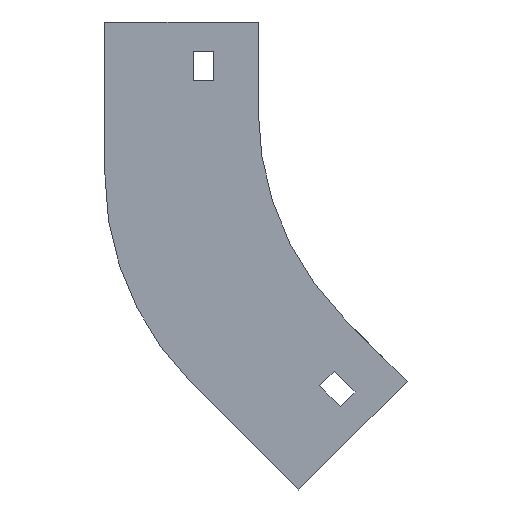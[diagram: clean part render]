
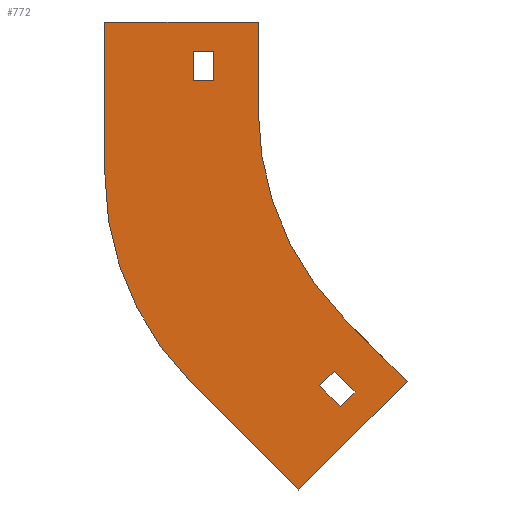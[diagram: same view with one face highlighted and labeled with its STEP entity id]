
A CAD part, left-side view. The second image highlights one B-rep face of the part: STEP entity #772.
In plain terms, the highlighted planar face has unit normal (-1, 0, 0).
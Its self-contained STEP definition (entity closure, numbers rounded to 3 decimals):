
#5 = VECTOR ( 'NONE', #921, 1000. ) ;
#8 = VERTEX_POINT ( 'NONE', #9 ) ;
#9 = CARTESIAN_POINT ( 'NONE',  ( -252., 15., -20. ) ) ;
#19 = DIRECTION ( 'NONE',  ( 0., 0., 1. ) ) ;
#28 = CARTESIAN_POINT ( 'NONE',  ( -252., -100., -30. ) ) ;
#44 = VECTOR ( 'NONE', #723, 1000. ) ;
#47 = LINE ( 'NONE', #1341, #559 ) ;
#66 = CARTESIAN_POINT ( 'NONE',  ( -252., 22., -10. ) ) ;
#68 = VECTOR ( 'NONE', #19, 1000. ) ;
#101 = LINE ( 'NONE', #1295, #420 ) ;
#105 = LINE ( 'NONE', #520, #114 ) ;
#114 = VECTOR ( 'NONE', #1300, 1000. ) ;
#134 = DIRECTION ( 'NONE',  ( 0., -0.707, -0.707 ) ) ;
#140 = LINE ( 'NONE', #993, #68 ) ;
#153 = CARTESIAN_POINT ( 'NONE',  ( -252., -25.754, -118.388 ) ) ;
#159 = CARTESIAN_POINT ( 'NONE',  ( -252., 0., 0. ) ) ;
#166 = ORIENTED_EDGE ( 'NONE', *, *, #1237, .F. ) ;
#180 = DIRECTION ( 'NONE',  ( 0., 0.707, 0.707 ) ) ;
#182 = EDGE_LOOP ( 'NONE', ( #1095, #605, #1086, #860 ) ) ;
#191 = LINE ( 'NONE', #281, #407 ) ;
#194 = DIRECTION ( 'NONE',  ( 0., -0.707, 0.707 ) ) ;
#203 = VERTEX_POINT ( 'NONE', #153 ) ;
#206 = AXIS2_PLACEMENT_3D ( 'NONE', #1242, #597, #494 ) ;
#213 = VERTEX_POINT ( 'NONE', #1103 ) ;
#261 = CARTESIAN_POINT ( 'NONE',  ( -252., -20.804, -123.338 ) ) ;
#278 = ORIENTED_EDGE ( 'NONE', *, *, #972, .F. ) ;
#281 = CARTESIAN_POINT ( 'NONE',  ( -252., 15., -10. ) ) ;
#304 = LINE ( 'NONE', #727, #488 ) ;
#308 = CARTESIAN_POINT ( 'NONE',  ( -252., 15., -10. ) ) ;
#324 = EDGE_LOOP ( 'NONE', ( #836, #1345, #1297, #1278, #278, #166, #504, #626 ) ) ;
#334 = DIRECTION ( 'NONE',  ( 0., -1., 0. ) ) ;
#343 = DIRECTION ( 'NONE',  ( 0., 0.707, 0.707 ) ) ;
#349 = EDGE_CURVE ( 'NONE', #460, #203, #712, .T. ) ;
#392 = CARTESIAN_POINT ( 'NONE',  ( -252., 22.711, -122.25 ) ) ;
#395 = CARTESIAN_POINT ( 'NONE',  ( -252., 22., -10. ) ) ;
#407 = VECTOR ( 'NONE', #925, 1000. ) ;
#410 = VERTEX_POINT ( 'NONE', #841 ) ;
#417 = ORIENTED_EDGE ( 'NONE', *, *, #1238, .F. ) ;
#420 = VECTOR ( 'NONE', #334, 1000. ) ;
#434 = EDGE_CURVE ( 'NONE', #438, #467, #919, .T. ) ;
#438 = VERTEX_POINT ( 'NONE', #395 ) ;
#460 = VERTEX_POINT ( 'NONE', #1267 ) ;
#467 = VERTEX_POINT ( 'NONE', #308 ) ;
#469 = VERTEX_POINT ( 'NONE', #732 ) ;
#470 = CARTESIAN_POINT ( 'NONE',  ( -252., -20.804, -123.338 ) ) ;
#484 = DIRECTION ( 'NONE',  ( -1., 0., 0. ) ) ;
#488 = VECTOR ( 'NONE', #194, 1000. ) ;
#494 = DIRECTION ( 'NONE',  ( 0., 0., -1. ) ) ;
#504 = ORIENTED_EDGE ( 'NONE', *, *, #995, .F. ) ;
#516 = LINE ( 'NONE', #1164, #5 ) ;
#520 = CARTESIAN_POINT ( 'NONE',  ( -252., -27.875, -130.409 ) ) ;
#525 = VERTEX_POINT ( 'NONE', #392 ) ;
#528 = CARTESIAN_POINT ( 'NONE',  ( -252., -13.733, -158.693 ) ) ;
#534 = FACE_OUTER_BOUND ( 'NONE', #324, .T. ) ;
#539 = CARTESIAN_POINT ( 'NONE',  ( -252., -27.875, -130.409 ) ) ;
#559 = VECTOR ( 'NONE', #932, 1000. ) ;
#568 = CARTESIAN_POINT ( 'NONE',  ( -252., -29.289, -100.711 ) ) ;
#574 = LINE ( 'NONE', #470, #964 ) ;
#584 = EDGE_CURVE ( 'NONE', #808, #659, #516, .T. ) ;
#589 = CARTESIAN_POINT ( 'NONE',  ( -252., -50.503, -121.924 ) ) ;
#597 = DIRECTION ( 'NONE',  ( 1., 0., 0. ) ) ;
#605 = ORIENTED_EDGE ( 'NONE', *, *, #937, .T. ) ;
#611 = LINE ( 'NONE', #1153, #44 ) ;
#625 = DIRECTION ( 'NONE',  ( 0., -1., 0. ) ) ;
#626 = ORIENTED_EDGE ( 'NONE', *, *, #1380, .F. ) ;
#636 = VERTEX_POINT ( 'NONE', #820 ) ;
#640 = VERTEX_POINT ( 'NONE', #719 ) ;
#647 = EDGE_LOOP ( 'NONE', ( #795, #1370, #930, #417 ) ) ;
#655 = EDGE_CURVE ( 'NONE', #658, #460, #304, .T. ) ;
#658 = VERTEX_POINT ( 'NONE', #539 ) ;
#659 = VERTEX_POINT ( 'NONE', #1303 ) ;
#667 = DIRECTION ( 'NONE',  ( -1., 0., 0. ) ) ;
#673 = DIRECTION ( 'NONE',  ( 0., 0., 1. ) ) ;
#712 = LINE ( 'NONE', #1258, #883 ) ;
#715 = VECTOR ( 'NONE', #343, 1000. ) ;
#719 = CARTESIAN_POINT ( 'NONE',  ( -252., 0., 0. ) ) ;
#723 = DIRECTION ( 'NONE',  ( 0., 1., 0. ) ) ;
#727 = CARTESIAN_POINT ( 'NONE',  ( -252., -27.875, -130.409 ) ) ;
#732 = CARTESIAN_POINT ( 'NONE',  ( -252., -29.289, -100.711 ) ) ;
#772 = ADVANCED_FACE ( 'NONE', ( #1057, #534, #801 ), #1220, .T. ) ;
#779 = VERTEX_POINT ( 'NONE', #589 ) ;
#795 = ORIENTED_EDGE ( 'NONE', *, *, #349, .F. ) ;
#801 = FACE_BOUND ( 'NONE', #647, .T. ) ;
#808 = VERTEX_POINT ( 'NONE', #897 ) ;
#820 = CARTESIAN_POINT ( 'NONE',  ( -252., -13.733, -158.693 ) ) ;
#836 = ORIENTED_EDGE ( 'NONE', *, *, #1132, .F. ) ;
#841 = CARTESIAN_POINT ( 'NONE',  ( -252., 22., -20. ) ) ;
#860 = ORIENTED_EDGE ( 'NONE', *, *, #1176, .T. ) ;
#862 = CIRCLE ( 'NONE', #1257, 100. ) ;
#876 = VERTEX_POINT ( 'NONE', #261 ) ;
#883 = VECTOR ( 'NONE', #180, 1000. ) ;
#897 = CARTESIAN_POINT ( 'NONE',  ( -252., 52., -51.539 ) ) ;
#919 = LINE ( 'NONE', #66, #1302 ) ;
#921 = DIRECTION ( 'NONE',  ( 0., 0., 1. ) ) ;
#924 = LINE ( 'NONE', #159, #1245 ) ;
#925 = DIRECTION ( 'NONE',  ( 0., 0., -1. ) ) ;
#930 = ORIENTED_EDGE ( 'NONE', *, *, #1085, .F. ) ;
#932 = DIRECTION ( 'NONE',  ( 0., 0.707, -0.707 ) ) ;
#937 = EDGE_CURVE ( 'NONE', #467, #8, #191, .T. ) ;
#948 = EDGE_CURVE ( 'NONE', #525, #808, #1372, .T. ) ;
#964 = VECTOR ( 'NONE', #986, 1000. ) ;
#972 = EDGE_CURVE ( 'NONE', #779, #636, #47, .T. ) ;
#986 = DIRECTION ( 'NONE',  ( 0., 0.707, -0.707 ) ) ;
#993 = CARTESIAN_POINT ( 'NONE',  ( -252., 22., -10. ) ) ;
#995 = EDGE_CURVE ( 'NONE', #213, #469, #862, .T. ) ;
#1057 = FACE_BOUND ( 'NONE', #182, .T. ) ;
#1060 = EDGE_CURVE ( 'NONE', #636, #525, #1070, .T. ) ;
#1068 = AXIS2_PLACEMENT_3D ( 'NONE', #28, #667, #673 ) ;
#1070 = LINE ( 'NONE', #528, #715 ) ;
#1085 = EDGE_CURVE ( 'NONE', #876, #658, #105, .T. ) ;
#1086 = ORIENTED_EDGE ( 'NONE', *, *, #1336, .T. ) ;
#1095 = ORIENTED_EDGE ( 'NONE', *, *, #434, .T. ) ;
#1103 = CARTESIAN_POINT ( 'NONE',  ( -252., 0., -30. ) ) ;
#1104 = LINE ( 'NONE', #568, #1200 ) ;
#1132 = EDGE_CURVE ( 'NONE', #659, #640, #101, .T. ) ;
#1153 = CARTESIAN_POINT ( 'NONE',  ( -252., 22., -20. ) ) ;
#1164 = CARTESIAN_POINT ( 'NONE',  ( -252., 52., -51.539 ) ) ;
#1176 = EDGE_CURVE ( 'NONE', #410, #438, #140, .T. ) ;
#1200 = VECTOR ( 'NONE', #134, 1000. ) ;
#1220 = PLANE ( 'NONE',  #1068 ) ;
#1236 = DIRECTION ( 'NONE',  ( 0., 0., 1. ) ) ;
#1237 = EDGE_CURVE ( 'NONE', #469, #779, #1104, .T. ) ;
#1238 = EDGE_CURVE ( 'NONE', #203, #876, #574, .T. ) ;
#1242 = CARTESIAN_POINT ( 'NONE',  ( -252., -48., -51.539 ) ) ;
#1245 = VECTOR ( 'NONE', #1359, 1000. ) ;
#1257 = AXIS2_PLACEMENT_3D ( 'NONE', #1348, #484, #1236 ) ;
#1258 = CARTESIAN_POINT ( 'NONE',  ( -252., -32.825, -125.459 ) ) ;
#1267 = CARTESIAN_POINT ( 'NONE',  ( -252., -32.825, -125.459 ) ) ;
#1278 = ORIENTED_EDGE ( 'NONE', *, *, #1060, .F. ) ;
#1295 = CARTESIAN_POINT ( 'NONE',  ( -252., 52., 0. ) ) ;
#1297 = ORIENTED_EDGE ( 'NONE', *, *, #948, .F. ) ;
#1300 = DIRECTION ( 'NONE',  ( 0., -0.707, -0.707 ) ) ;
#1302 = VECTOR ( 'NONE', #625, 1000. ) ;
#1303 = CARTESIAN_POINT ( 'NONE',  ( -252., 52., 0. ) ) ;
#1336 = EDGE_CURVE ( 'NONE', #8, #410, #611, .T. ) ;
#1341 = CARTESIAN_POINT ( 'NONE',  ( -252., -50.503, -121.924 ) ) ;
#1345 = ORIENTED_EDGE ( 'NONE', *, *, #584, .F. ) ;
#1348 = CARTESIAN_POINT ( 'NONE',  ( -252., -100., -30. ) ) ;
#1359 = DIRECTION ( 'NONE',  ( 0., 0., -1. ) ) ;
#1370 = ORIENTED_EDGE ( 'NONE', *, *, #655, .F. ) ;
#1372 = CIRCLE ( 'NONE', #206, 100. ) ;
#1380 = EDGE_CURVE ( 'NONE', #640, #213, #924, .T. ) ;
